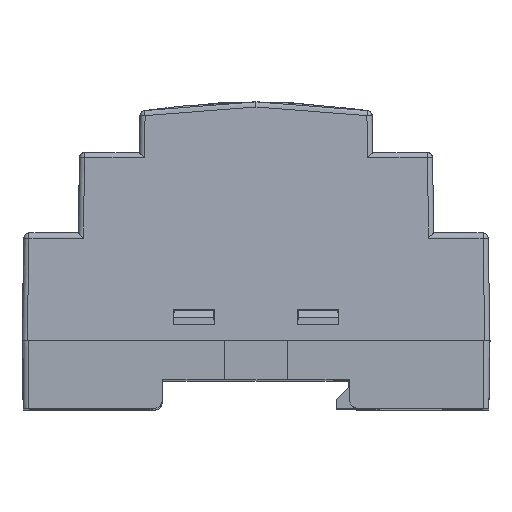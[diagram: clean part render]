
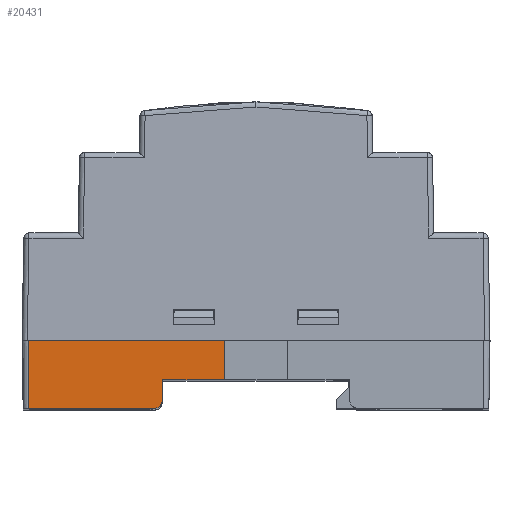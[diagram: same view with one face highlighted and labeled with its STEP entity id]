
A CAD part, top view. The second image highlights one B-rep face of the part: STEP entity #20431.
In plain terms, the highlighted planar face has unit normal (0, -0.018, 1).
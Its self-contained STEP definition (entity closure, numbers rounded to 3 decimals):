
#198 = PLANE ( 'NONE',  #20657 ) ;
#1653 = LINE ( 'NONE', #16882, #10460 ) ;
#4977 = VERTEX_POINT ( 'NONE', #15433 ) ;
#5075 = DIRECTION ( 'NONE',  ( 0., -0.017, 1. ) ) ;
#6404 = EDGE_CURVE ( 'NONE', #37038, #4977, #1653, .T. ) ;
#8057 = LINE ( 'NONE', #13523, #47659 ) ;
#8222 = EDGE_CURVE ( 'NONE', #46302, #21648, #39016, .T. ) ;
#8944 = CARTESIAN_POINT ( 'NONE',  ( -45., -13.1, 105.821 ) ) ;
#9142 = ORIENTED_EDGE ( 'NONE', *, *, #6404, .F. ) ;
#10460 = VECTOR ( 'NONE', #35234, 1000. ) ;
#11183 = CARTESIAN_POINT ( 'NONE',  ( -43.75, -13.1, 105.821 ) ) ;
#11214 = DIRECTION ( 'NONE',  ( 0., -1., -0.017 ) ) ;
#11554 = EDGE_CURVE ( 'NONE', #46302, #31308, #16656, .T. ) ;
#12337 = ORIENTED_EDGE ( 'NONE', *, *, #8222, .T. ) ;
#13111 = EDGE_CURVE ( 'NONE', #21648, #39155, #27267, .T. ) ;
#13428 = LINE ( 'NONE', #55048, #28191 ) ;
#13523 = CARTESIAN_POINT ( 'NONE',  ( -5.98, 0.445, 106.058 ) ) ;
#15433 = CARTESIAN_POINT ( 'NONE',  ( -18.02, -11.626, 105.847 ) ) ;
#16656 = LINE ( 'NONE', #26433, #36104 ) ;
#16882 = CARTESIAN_POINT ( 'NONE',  ( -17.798, 1.096, 106.069 ) ) ;
#16912 = VECTOR ( 'NONE', #11214, 1000. ) ;
#17763 = CARTESIAN_POINT ( 'NONE',  ( -18.035, -12.493, 105.832 ) ) ;
#19123 = DIRECTION ( 'NONE',  ( 0., -1., -0.017 ) ) ;
#19400 = ORIENTED_EDGE ( 'NONE', *, *, #36755, .T. ) ;
#20151 = CARTESIAN_POINT ( 'NONE',  ( -43.75, 0., 106.05 ) ) ;
#20431 = ADVANCED_FACE ( 'NONE', ( #24015 ), #198, .T. ) ;
#20657 = AXIS2_PLACEMENT_3D ( 'NONE', #32891, #5075, #19123 ) ;
#20920 = CARTESIAN_POINT ( 'NONE',  ( -5.984, 0., 106.05 ) ) ;
#21648 = VERTEX_POINT ( 'NONE', #11183 ) ;
#24015 = FACE_OUTER_BOUND ( 'NONE', #57768, .T. ) ;
#26433 = CARTESIAN_POINT ( 'NONE',  ( 45., 0., 106.05 ) ) ;
#26526 = CARTESIAN_POINT ( 'NONE',  ( -17.95, -7.6, 105.917 ) ) ;
#27267 = LINE ( 'NONE', #8944, #40379 ) ;
#28191 = VECTOR ( 'NONE', #32088, 1000. ) ;
#31308 = VERTEX_POINT ( 'NONE', #20920 ) ;
#31829 = CARTESIAN_POINT ( 'NONE',  ( -19.52, -13.1, 105.821 ) ) ;
#31856 = DIRECTION ( 'NONE',  ( 1., 0., 0. ) ) ;
#32088 = DIRECTION ( 'NONE',  ( 1., 0., 0. ) ) ;
#32891 = CARTESIAN_POINT ( 'NONE',  ( 45., 0., 106.05 ) ) ;
#35234 = DIRECTION ( 'NONE',  ( -0.017, -1., -0.017 ) ) ;
#36104 = VECTOR ( 'NONE', #54288, 1000. ) ;
#36388 = CARTESIAN_POINT ( 'NONE',  ( -18.653, -13.1, 105.821 ) ) ;
#36755 = EDGE_CURVE ( 'NONE', #37038, #51367, #13428, .T. ) ;
#37038 = VERTEX_POINT ( 'NONE', #26526 ) ;
#39016 = LINE ( 'NONE', #53127, #16912 ) ;
#39155 = VERTEX_POINT ( 'NONE', #45486 ) ;
#40287 = ORIENTED_EDGE ( 'NONE', *, *, #13111, .T. ) ;
#40379 = VECTOR ( 'NONE', #31856, 1000. ) ;
#40690 = CARTESIAN_POINT ( 'NONE',  ( -18.02, -11.626, 105.847 ) ) ;
#40739 = DIRECTION ( 'NONE',  ( -0.009, -1., -0.017 ) ) ;
#44323 = ORIENTED_EDGE ( 'NONE', *, *, #11554, .F. ) ;
#45342 = ORIENTED_EDGE ( 'NONE', *, *, #46911, .T. ) ;
#45486 = CARTESIAN_POINT ( 'NONE',  ( -19.52, -13.1, 105.821 ) ) ;
#46302 = VERTEX_POINT ( 'NONE', #20151 ) ;
#46911 = EDGE_CURVE ( 'NONE', #39155, #4977, #58590, .T. ) ;
#47659 = VECTOR ( 'NONE', #40739, 1000. ) ;
#51367 = VERTEX_POINT ( 'NONE', #57795 ) ;
#53127 = CARTESIAN_POINT ( 'NONE',  ( -43.75, 0., 106.05 ) ) ;
#54288 = DIRECTION ( 'NONE',  ( 1., 0., 0. ) ) ;
#55048 = CARTESIAN_POINT ( 'NONE',  ( 45., -7.6, 105.917 ) ) ;
#57768 = EDGE_LOOP ( 'NONE', ( #40287, #45342, #9142, #19400, #58035, #44323, #12337 ) ) ;
#57795 = CARTESIAN_POINT ( 'NONE',  ( -6.05, -7.6, 105.917 ) ) ;
#58035 = ORIENTED_EDGE ( 'NONE', *, *, #59473, .F. ) ;
#58590 =( BOUNDED_CURVE ( )  B_SPLINE_CURVE ( 3, ( #31829, #36388, #17763, #40690 ),
 .UNSPECIFIED., .F., .T. ) 
 B_SPLINE_CURVE_WITH_KNOTS ( ( 4, 4 ),
 ( 0., 1.553 ),
 .UNSPECIFIED. ) 
 CURVE ( )  GEOMETRIC_REPRESENTATION_ITEM ( )  RATIONAL_B_SPLINE_CURVE ( ( 1., 0.809, 0.809, 1. ) ) 
 REPRESENTATION_ITEM ( '' )  );
#59473 = EDGE_CURVE ( 'NONE', #31308, #51367, #8057, .T. ) ;
